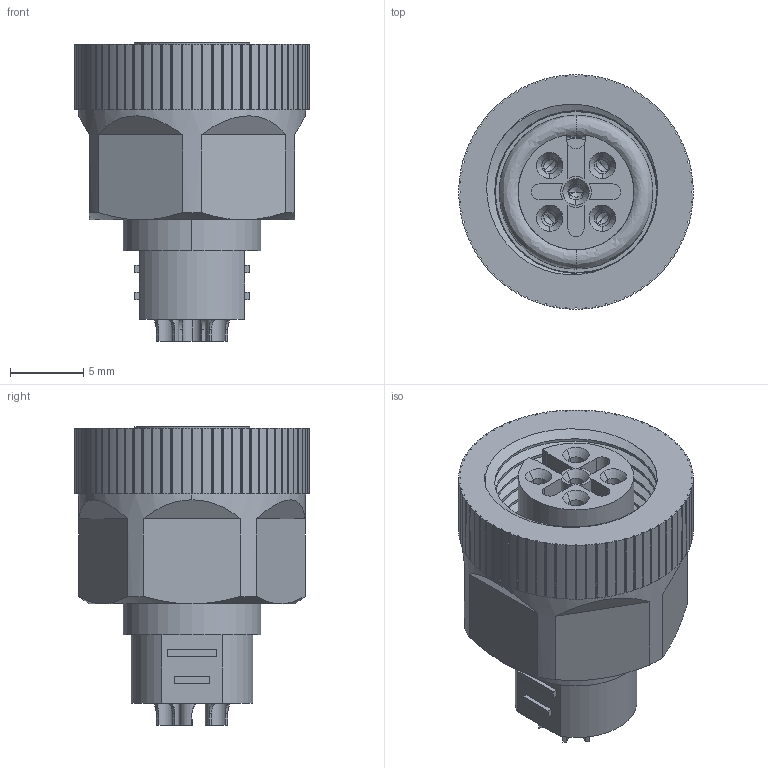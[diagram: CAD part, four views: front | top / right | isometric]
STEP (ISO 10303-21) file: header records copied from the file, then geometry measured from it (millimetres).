
FILE_DESCRIPTION (( 'STEP AP203' ), '1' );
FILE_NAME ('858-005-203FSU4.STEP', '2025-12-03T14:01:51', ( '' ), ( '' ), 'SwSTEP 2.0', 'SolidWorks 2020', '' );
FILE_SCHEMA (( 'CONFIG_CONTROL_DESIGN' ));
Length unit declared in the file: millimetre
Products named in the file (1): 858-005-203FSU4
Bounding box: 16 x 16 x 20.4 mm (x, y, z)
Volume: 1976.7 mm3; surface area: 3427.5 mm2
Topology: 1 solids, 1 shells, 631 faces, 1751 edges, 1130 vertices
Faces by surface type: plane 347, cylinder 208, bspline 40, cone 36
Entity records: 29311 total; most frequent: CARTESIAN_POINT 13616, ORIENTED_EDGE 3462, DIRECTION 2948, EDGE_CURVE 1731, VERTEX_POINT 1130, LINE 1056, VECTOR 1056, AXIS2_PLACEMENT_3D 946
